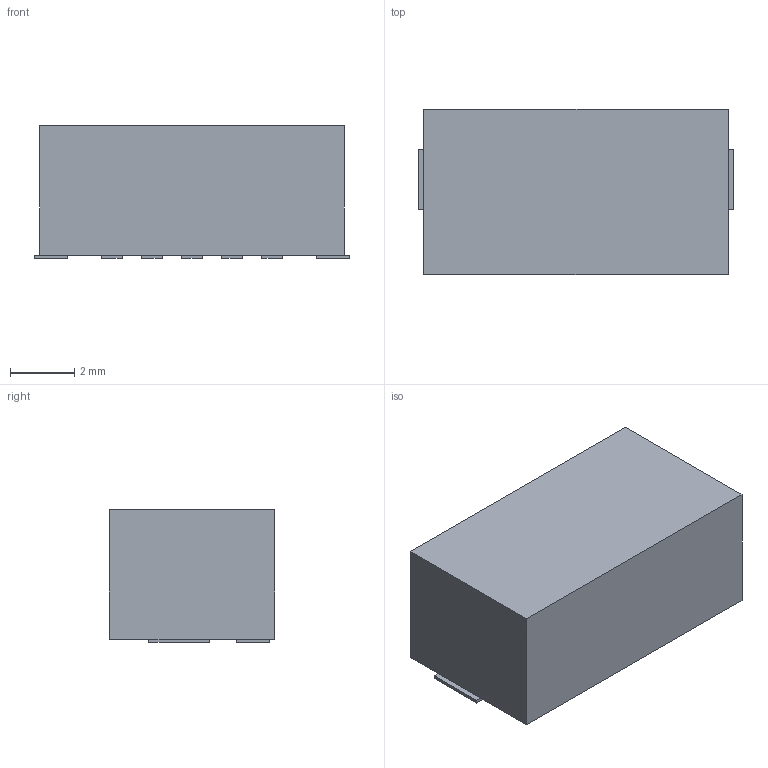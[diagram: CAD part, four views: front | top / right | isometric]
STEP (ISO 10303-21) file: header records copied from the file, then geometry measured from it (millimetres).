
FILE_DESCRIPTION(('FreeCAD Model'),'2;1');
FILE_NAME('/var/www/3D/0T/990880.2.4.stp','2020-04-09T18:19:38',( 'Author'),(''),'Open CASCADE STEP processor 6.9','FreeCAD','Unknown' );
FILE_SCHEMA(('AUTOMOTIVE_DESIGN { 1 0 10303 214 1 1 1 1 }'));
Length unit declared in the file: millimetre
Products named in the file (3): ASSEMBLY; Body; Pins
Assembly tree (2 placements, depth 2):
  ASSEMBLY
    Body
    Pins
Bounding box: 9.84 x 5.15 x 4.15 mm (x, y, z)
Volume: 198.9 mm3; surface area: 233.9 mm2
Topology: 8 solids, 8 shells, 48 faces, 96 edges, 64 vertices
Faces by surface type: plane 48
Entity records: 2576 total; most frequent: CARTESIAN_POINT 403, DIRECTION 390, LINE 288, VECTOR 288, ORIENTED_EDGE 192, PCURVE 192, DEFINITIONAL_REPRESENTATION 192, EDGE_CURVE 96
